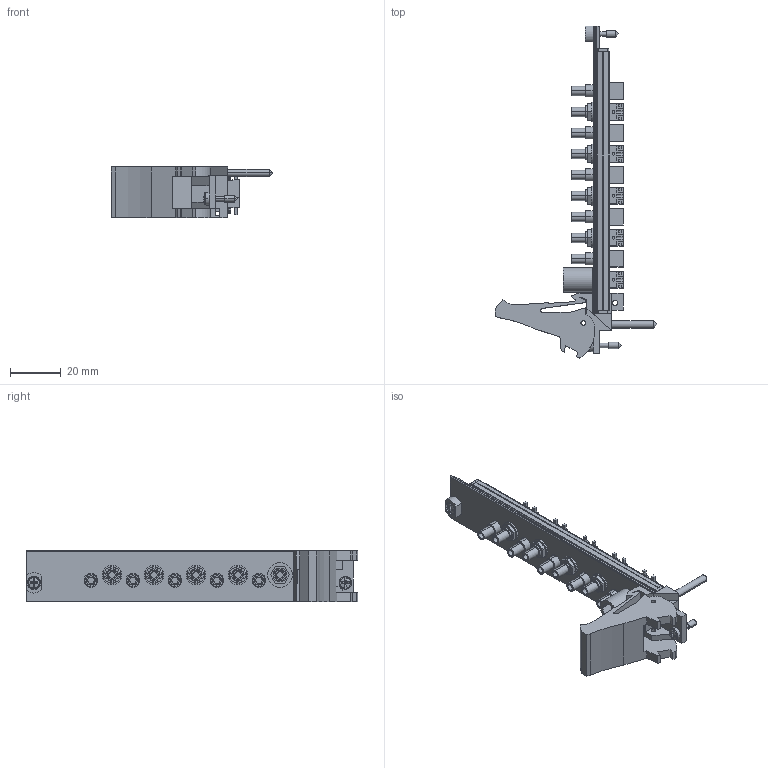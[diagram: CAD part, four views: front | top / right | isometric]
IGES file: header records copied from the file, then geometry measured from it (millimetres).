
Start section:  PTC IGES file: cu_pxi-2590.igs
Global section: file name: cu_pxi-2590.igs; native system: Pro/ENGINEER by Parametric Technology Corporation; preprocessor: 2010230; author: jjorden; organization: Unknown; date: 20110815.085351; units: inch
Bounding box: 63.53 x 130.5 x 20.31 mm (x, y, z)
Surface area: 21953.1 mm2 (no closed solid volume)
Topology: 0 solids, 0 shells, 1151 faces, 6160 edges, 6156 vertices
Faces by surface type: bspline 840, revolution 311
